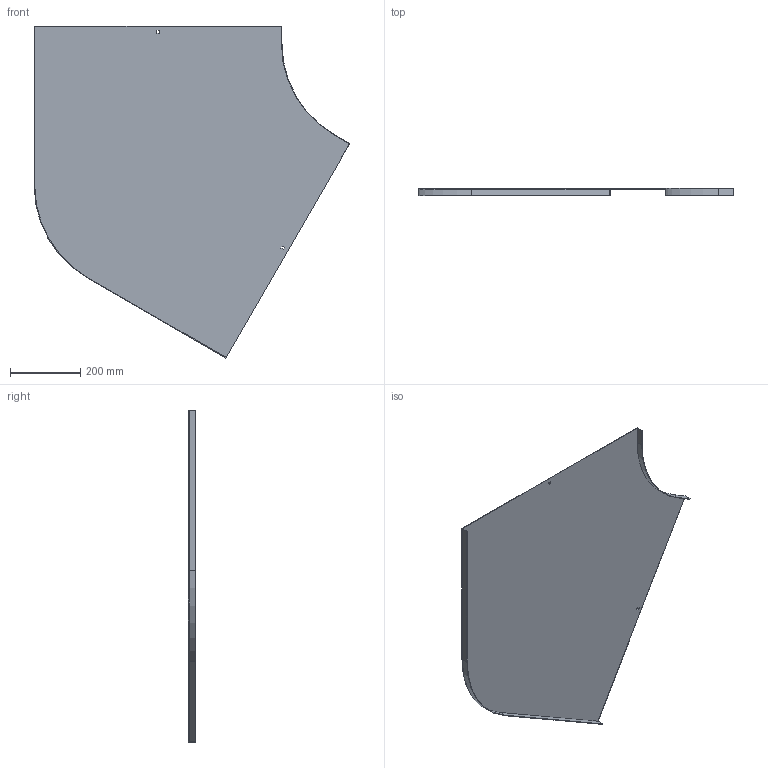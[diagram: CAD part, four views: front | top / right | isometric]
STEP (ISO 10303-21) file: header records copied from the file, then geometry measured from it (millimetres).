
FILE_DESCRIPTION (( 'STEP AP214' ), '1' );
FILE_NAME ('B2_13N3R700.step', '2025-02-21T10:52:57', ( '' ), ( '' ), 'SwSTEP 2.0', 'SolidWorks 2023', '' );
FILE_SCHEMA (( 'AUTOMOTIVE_DESIGN' ));
Length unit declared in the file: millimetre
Products named in the file (1): B2_13N3R700
Bounding box: 895.55 x 20 x 942.32 mm (x, y, z)
Volume: 942005.9 mm3; surface area: 1260775.8 mm2
Topology: 1 solids, 1 shells, 26 faces, 72 edges, 48 vertices
Faces by surface type: plane 22, cylinder 4
Entity records: 855 total; most frequent: CARTESIAN_POINT 147, ORIENTED_EDGE 144, DIRECTION 134, EDGE_CURVE 72, LINE 64, VECTOR 64, VERTEX_POINT 48, AXIS2_PLACEMENT_3D 35
